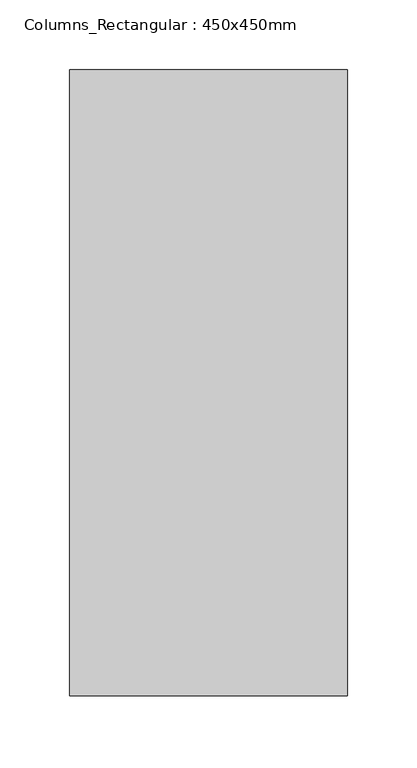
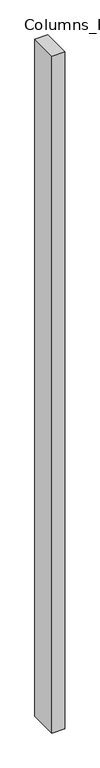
"""IFC4 building model written with IfcOpenShell, lengths in millimetres: column geometry, Columns_Rectangular : 450x450mm."""

import ifcopenshell
import ifcopenshell.guid

model = None  # the IFC model being written
_history = None  # IfcOwnerHistory: only IFC2X3 demands one
_inside = {}  # id of a spatial element -> (the spatial element, [elements in it])
_under = {}  # id of a project, library or spatial element -> (it, [spatial elements below it])
_declared = {}  # id of a project -> (the project, [libraries it declares])
_typed = {}  # id of a type object -> (the type object, [elements of that type])
_made_of = {}  # id of a material, layer set ... -> (it, [elements and type objects made of it])


def new_model(schema):
    """Start an empty IFC model of exactly this schema.

    Asked for "IFC4X3", IfcOpenShell would pick the latest addendum, in which some entities
    have other attributes; the version numbers below select the first issue.
    IFC2X3 requires an IfcOwnerHistory on every rooted entity: one is made here for all.
    """
    global model, _history
    if schema == "IFC4X3":
        model = ifcopenshell.file(schema_version=(4, 3, 0, 0))
    else:
        model = ifcopenshell.file(schema=schema)
    _inside.clear()
    _under.clear()
    _declared.clear()
    _typed.clear()
    _made_of.clear()
    _history = None
    if model.schema == "IFC2X3":
        org = make("IfcOrganization", Name="unknown")
        user = make(
            "IfcPersonAndOrganization",
            ThePerson=make("IfcPerson", FamilyName="unknown"),
            TheOrganization=org,
        )
        app = make(
            "IfcApplication",
            ApplicationDeveloper=org,
            Version="unknown",
            ApplicationFullName="unknown",
            ApplicationIdentifier="unknown",
        )
        _history = make(
            "IfcOwnerHistory",
            OwningUser=user,
            OwningApplication=app,
            ChangeAction="ADDED",
            CreationDate=0,
        )
    return model


def make(cls, **values):
    """One entity of the class cls with the attributes given. An attribute that is None is left unset."""
    return model.create_entity(
        cls, **{name: value for name, value in values.items() if value is not None}
    )


def rooted(cls, **values):
    """An entity with a GlobalId (a new one), such as an element, a storey or a relation."""
    return make(cls, GlobalId=ifcopenshell.guid.new(), OwnerHistory=_history, **values)


def si_unit(unit_type, name, prefix=None):
    """IfcSIUnit, for example si_unit("LENGTHUNIT", "METRE", prefix="MILLI")."""
    return make("IfcSIUnit", UnitType=unit_type, Prefix=prefix, Name=name)


def assignment(units):
    """IfcUnitAssignment: the units of a project."""
    return None if units is None else make("IfcUnitAssignment", Units=units)


def point(xyz):
    """IfcCartesianPoint."""
    return None if xyz is None else make("IfcCartesianPoint", Coordinates=xyz)


def direction(xyz):
    """IfcDirection."""
    return None if xyz is None else make("IfcDirection", DirectionRatios=xyz)


def frame(location, z_axis=None, x_axis=None):
    """IfcAxis2Placement3D, a coordinate frame: its origin and axes. An axis left out is left unset."""
    return make(
        "IfcAxis2Placement3D",
        Location=point(location),
        Axis=direction(z_axis),
        RefDirection=direction(x_axis),
    )


def origin():
    """The frame at (0, 0, 0) with its axes left unset."""
    return frame((0.0, 0.0, 0.0))


def place(relative_to, where):
    """IfcLocalPlacement: puts the frame where relative to a parent placement (None: the world)."""
    return make(
        "IfcLocalPlacement", PlacementRelTo=relative_to, RelativePlacement=where
    )


def context(
    kind, dimensions, precision=None, world=None, true_north=None, identifier=None
):
    """IfcGeometricRepresentationContext, for example the 3D "Model" context."""
    return make(
        "IfcGeometricRepresentationContext",
        ContextIdentifier=identifier,
        ContextType=kind,
        CoordinateSpaceDimension=dimensions,
        Precision=precision,
        WorldCoordinateSystem=world,
        TrueNorth=true_north,
    )


def project(units=None, contexts=None):
    """IfcProject with its units and contexts."""
    return rooted(
        "IfcProject",
        Name="project",
        RepresentationContexts=contexts,
        UnitsInContext=assignment(units),
    )


def spatial(cls, under=None, at=None, **own):
    """A site, building, storey or space (cls), placed at a placement, below another one or the project."""
    s = rooted(cls, ObjectPlacement=at, **own)
    if under is not None:
        _under.setdefault(under.id(), (under, []))[1].append(s)
    return s


def polyline(points):
    """IfcPolyline through the points."""
    return make("IfcPolyline", Points=[point(p) for p in points])


def outline(outer, holes=None, kind="AREA"):
    """IfcArbitraryClosedProfileDef: a profile drawn as a closed curve; with holes, ...WithVoids."""
    if holes is None:
        return make("IfcArbitraryClosedProfileDef", ProfileType=kind, OuterCurve=outer)
    return make(
        "IfcArbitraryProfileDefWithVoids",
        ProfileType=kind,
        OuterCurve=outer,
        InnerCurves=holes,
    )


def extrude(swept, where, along, depth):
    """IfcExtrudedAreaSolid: the profile swept, set in the frame where, extruded along a direction by depth."""
    return make(
        "IfcExtrudedAreaSolid",
        SweptArea=swept,
        Position=where,
        ExtrudedDirection=direction(along),
        Depth=depth,
    )


def shape(context_of_items, identifier, shape_type, items):
    """IfcShapeRepresentation: the items that make up one representation, for example the "Body"."""
    return make(
        "IfcShapeRepresentation",
        ContextOfItems=context_of_items,
        RepresentationIdentifier=identifier,
        RepresentationType=shape_type,
        Items=items,
    )


def source(mapping_origin, context_of_items, identifier, shape_type, items):
    """IfcRepresentationMap: a shape defined once, which mapped items show again and again."""
    return make(
        "IfcRepresentationMap",
        MappingOrigin=mapping_origin,
        MappedRepresentation=shape(context_of_items, identifier, shape_type, items),
    )


def transform(
    local_origin,
    x_axis=None,
    y_axis=None,
    z_axis=None,
    scale=None,
    scale2=None,
    scale3=None,
    uniform=True,
):
    """IfcCartesianTransformationOperator3D, or its non-uniform kind. x_axis, y_axis, z_axis: its Axis1, 2, 3."""
    if uniform:
        return make(
            "IfcCartesianTransformationOperator3D",
            Axis1=direction(x_axis),
            Axis2=direction(y_axis),
            LocalOrigin=point(local_origin),
            Scale=scale,
            Axis3=direction(z_axis),
        )
    return make(
        "IfcCartesianTransformationOperator3DnonUniform",
        Axis1=direction(x_axis),
        Axis2=direction(y_axis),
        LocalOrigin=point(local_origin),
        Scale=scale,
        Axis3=direction(z_axis),
        Scale2=scale2,
        Scale3=scale3,
    )


def mapped(mapping_source, mapping_target):
    """IfcMappedItem: shows the shape of a source again, moved by a transform."""
    return make(
        "IfcMappedItem", MappingSource=mapping_source, MappingTarget=mapping_target
    )


def made_of(thing, what):
    """Note that an element or type object is made of a material, layer set ...; save() writes the relation."""
    if what is not None:
        _made_of.setdefault(what.id(), (what, []))[1].append(thing)
    return thing


def element(
    cls,
    number,
    at=None,
    inside=None,
    cuts=None,
    type_object=None,
    material=None,
    context=None,
    identifier="Body",
    shape_type=None,
    held_by="IfcProductDefinitionShape",
    body=None,
    shapes=None,
    **own,
):
    """One element of the class cls, such as IfcWall. Its Tag is "e" and its number.

    at: its placement. inside: the storey or other place that contains it. cuts: it is an
    opening in that element (IfcRelVoidsElement). A single representation is given by context,
    identifier, shape_type and body (its items); several are given by shapes. held_by: the class
    of the entity that holds the representations. save() writes the other relations.
    """
    e = rooted(cls, Tag="e%d" % number, ObjectPlacement=at, **own)
    if body is not None:
        shapes = [shape(context, identifier, shape_type, body)]
    if shapes is not None:
        e.Representation = make(held_by, Representations=shapes)
    if inside is not None:
        _inside.setdefault(inside.id(), (inside, []))[1].append(e)
    if cuts is not None:
        rooted(
            "IfcRelVoidsElement", RelatingBuildingElement=cuts, RelatedOpeningElement=e
        )
    if type_object is not None:
        _typed.setdefault(type_object.id(), (type_object, []))[1].append(e)
    return made_of(e, material)


def aggregate(whole, parts):
    """IfcRelAggregates: a whole, such as a stair, and the parts it consists of."""
    return rooted("IfcRelAggregates", RelatingObject=whole, RelatedObjects=parts)


def save(model, path):
    """Write the relations noted so far, then the file.

    IfcRelAggregates (storeys below a building ...), IfcRelContainedInSpatialStructure (elements
    in a storey), IfcRelDefinesByType, IfcRelAssociatesMaterial and IfcRelDeclares: one each for
    every whole, place, type object, material and project.
    """
    for whole, parts in _under.values():
        aggregate(whole, parts)
    for where, things in _inside.values():
        rooted(
            "IfcRelContainedInSpatialStructure",
            RelatedElements=things,
            RelatingStructure=where,
        )
    for kind, things in _typed.values():
        rooted("IfcRelDefinesByType", RelatedObjects=things, RelatingType=kind)
    for what, things in _made_of.values():
        rooted("IfcRelAssociatesMaterial", RelatedObjects=things, RelatingMaterial=what)
    for by, libraries in _declared.values():
        rooted("IfcRelDeclares", RelatingContext=by, RelatedDefinitions=libraries)
    model.write(path)


def columns_rectangular_450x450mm_5a11ff67(model_context):
    return source(origin(), model_context, "Body", "SweptSolid", [
        extrude(outline(polyline([(100.0, 225.0), (100.0, -225.0), (-100.0, -225.0), (-100.0, 225.0), (100.0, 225.0)])), frame((0.0, 0.0, 2800.0), z_axis=(0.0, 0.0, 1.0), x_axis=(1.0, 0.0, 0.0)), (0.0, 0.0, 1.0), 11000.0),
    ])


if __name__ == "__main__":
    model = new_model("IFC4")
    model_context = context("Model", 3, world=origin())
    ifc_project = project(units=[si_unit("LENGTHUNIT", "METRE", prefix="MILLI")], contexts=[model_context])
    site = spatial("IfcSite", under=ifc_project)
    building = spatial("IfcBuilding", under=site)
    placement = place(None, origin())
    columns_rectangular_450x450mm_shape = columns_rectangular_450x450mm_5a11ff67(model_context)
    element("IfcColumn", 1, ObjectType="Columns_Rectangular : 450x450mm", at=placement, inside=building, context=model_context, shape_type="MappedRepresentation", body=[
        mapped(columns_rectangular_450x450mm_shape, transform((0.0, 0.0, 0.0), x_axis=(1.0, 0.0, 0.0), y_axis=(0.0, 1.0, 0.0), z_axis=(0.0, 0.0, 1.0))),
    ])
    save(model, "model.ifc")
